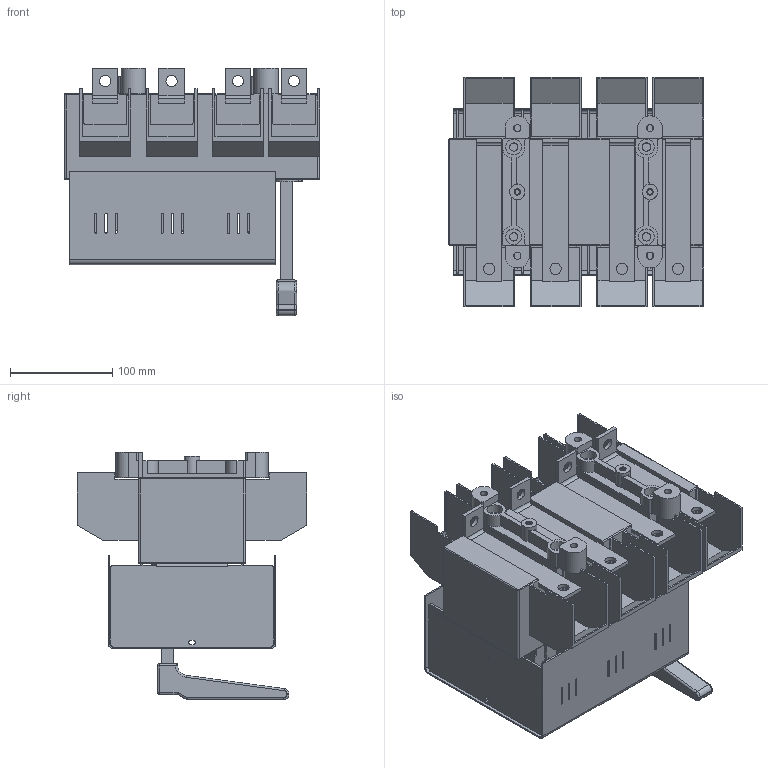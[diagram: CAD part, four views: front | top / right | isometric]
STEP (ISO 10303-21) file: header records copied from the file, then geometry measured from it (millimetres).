
FILE_DESCRIPTION(/* description */ (''),/* implementation_level */ '2;1');
FILE_NAME(/* name */ 'RAB 1 P3 NB-R z oslona zaciskow.stp',/* time_stamp */ '2021-08-19T12:44:19+02:00',/* author */ (''),/* organization */ (''),/* preprocessor_version */ 'ST-DEVELOPER v18.1',/* originating_system */ 'SIEMENS PLM Software NX 1965',/* authorisation */ '');
FILE_SCHEMA (('TECHNICAL_DATA_PACKAGING'));
Length unit declared in the file: millimetre
Products named in the file (1): RAB 1 P3 NB-R z oslona zaciskow
Bounding box: 250 x 225 x 242.3 mm (x, y, z)
Volume: 2639191.4 mm3; surface area: 612710.8 mm2
Topology: 1 solids, 1 shells, 1266 faces, 3511 edges, 2283 vertices
Faces by surface type: plane 863, cylinder 381, bspline 8, torus 8, sphere 6
Full cylindrical faces by diameter (mm): 4.8 x2, 6.2 x2, 7 x4, 8.2 x4, 11 x8, 14 x4, 15 x2, 15.5 x4
Entity records: 40391 total; most frequent: CARTESIAN_POINT 7199, ORIENTED_EDGE 6942, DIRECTION 6783, EDGE_CURVE 3471, LINE 2661, VECTOR 2661, VERTEX_POINT 2276, AXIS2_PLACEMENT_3D 2061
